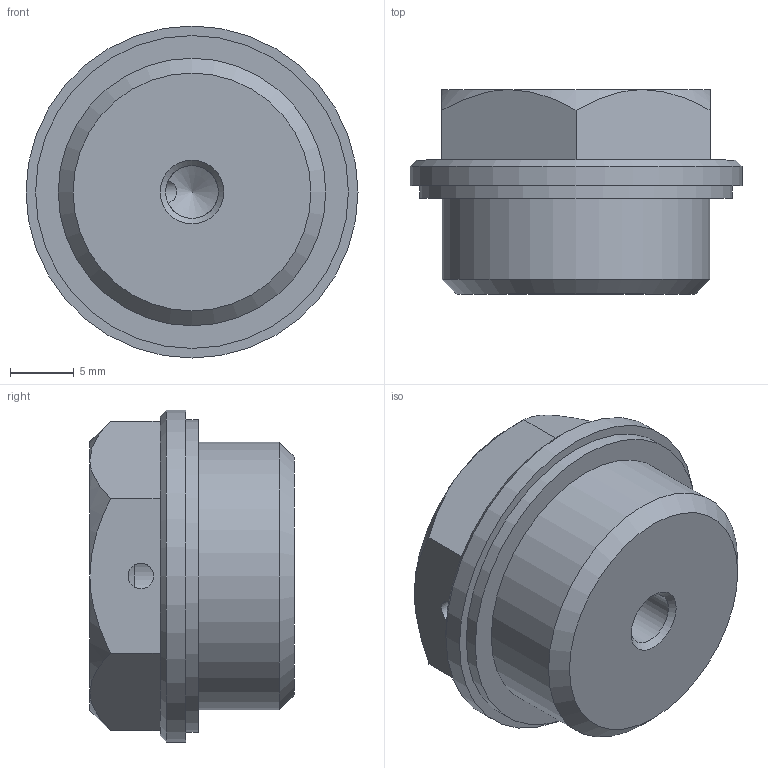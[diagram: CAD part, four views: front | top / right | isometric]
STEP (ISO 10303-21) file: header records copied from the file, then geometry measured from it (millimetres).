
FILE_DESCRIPTION( ( 'STEP AP203' ), '1' );
FILE_NAME( 'C:/Temp/Ganter_Step_05_03_2020/data/3_5/gn742/gn742_2/Threaded plug GN 742-26-G1_2-OS-2.stp', '2020-03-12T13:39:42', ( 'License CC BY-ND 4.0' ), ( 'CADENAS' ), ' ', 'PARTsolutions', ' ' );
FILE_SCHEMA( ( 'CONFIG_CONTROL_DESIGN' ) );
Length unit declared in the file: millimetre
Products named in the file (1): _Threaded plug GN 742-26-G1/2-OS-2
Bounding box: 26 x 16 x 26 mm (x, y, z)
Volume: 5948.8 mm3; surface area: 2308.8 mm2
Topology: 1 solids, 1 shells, 26 faces, 56 edges, 34 vertices
Faces by surface type: plane 11, cone 10, cylinder 5
Full cylindrical faces by diameter (mm): 2 x1, 4.134 x1, 20.955 x1, 24.5 x1, 26 x1
Entity records: 776 total; most frequent: CARTESIAN_POINT 229, DIRECTION 102, ORIENTED_EDGE 88, AXIS2_PLACEMENT_3D 45, EDGE_CURVE 44, EDGE_LOOP 39, VERTEX_POINT 32, FACE_OUTER_BOUND 31
